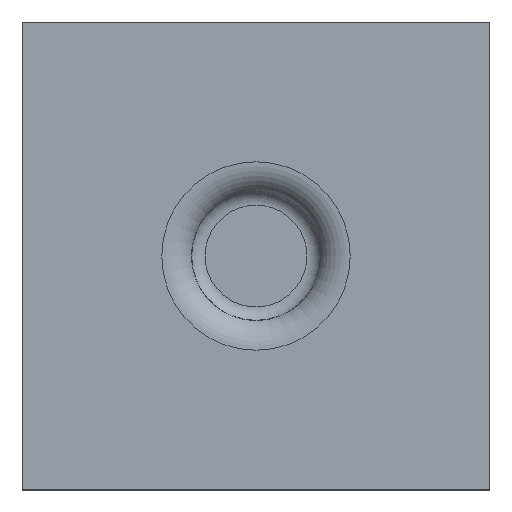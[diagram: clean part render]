
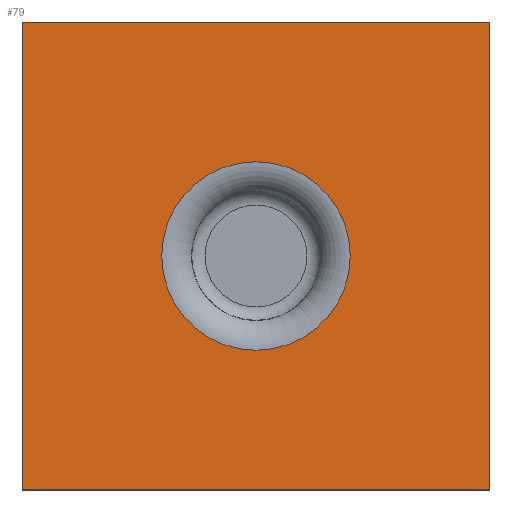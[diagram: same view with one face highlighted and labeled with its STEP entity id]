
A CAD part, top view. The second image highlights one B-rep face of the part: STEP entity #79.
In plain terms, the highlighted planar face has unit normal (0, 0, 1).
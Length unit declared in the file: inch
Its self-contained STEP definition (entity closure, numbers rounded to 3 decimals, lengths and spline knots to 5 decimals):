
#79=ADVANCED_FACE('',(#101,#102),#103,.T.);
#101=FACE_OUTER_BOUND('',#137,.T.);
#102=FACE_BOUND('',#138,.T.);
#103=PLANE('',#139);
#137=EDGE_LOOP('',(#181,#182,#183,#184));
#138=EDGE_LOOP('',(#185));
#139=AXIS2_PLACEMENT_3D('',#186,#187,#188);
#181=ORIENTED_EDGE('',*,*,#248,.T.);
#182=ORIENTED_EDGE('',*,*,#249,.T.);
#183=ORIENTED_EDGE('',*,*,#250,.T.);
#184=ORIENTED_EDGE('',*,*,#251,.T.);
#185=ORIENTED_EDGE('',*,*,#244,.F.);
#186=CARTESIAN_POINT('',(-1.24065,-0.51097,0.075));
#187=DIRECTION('',(0.0,0.0,1.0));
#188=DIRECTION('',(1.0,0.0,0.0));
#244=EDGE_CURVE('',#264,#264,#265,.T.);
#248=EDGE_CURVE('',#272,#273,#274,.F.);
#249=EDGE_CURVE('',#273,#275,#276,.F.);
#250=EDGE_CURVE('',#275,#277,#278,.F.);
#251=EDGE_CURVE('',#277,#272,#279,.F.);
#264=VERTEX_POINT('',#300);
#265=CIRCLE('',#301,0.40261);
#272=VERTEX_POINT('',#308);
#273=VERTEX_POINT('',#309);
#274=LINE('',#310,#311);
#275=VERTEX_POINT('',#312);
#276=LINE('',#313,#314);
#277=VERTEX_POINT('',#315);
#278=LINE('',#316,#317);
#279=LINE('',#318,#319);
#300=CARTESIAN_POINT('',(-0.83804,-0.51097,0.075));
#301=AXIS2_PLACEMENT_3D('',#348,#349,#350);
#308=CARTESIAN_POINT('',(-0.24065,-1.51097,0.075));
#309=CARTESIAN_POINT('',(-0.24065,0.48903,0.075));
#310=CARTESIAN_POINT('',(-0.24065,-0.51097,0.075));
#311=VECTOR('',#360,1.0);
#312=CARTESIAN_POINT('',(-2.24065,0.48903,0.075));
#313=CARTESIAN_POINT('',(-1.24065,0.48903,0.075));
#314=VECTOR('',#361,1.0);
#315=CARTESIAN_POINT('',(-2.24065,-1.51097,0.075));
#316=CARTESIAN_POINT('',(-2.24065,-0.51097,0.075));
#317=VECTOR('',#362,1.0);
#318=CARTESIAN_POINT('',(-1.24065,-1.51097,0.075));
#319=VECTOR('',#363,1.0);
#348=CARTESIAN_POINT('',(-1.24065,-0.51097,0.075));
#349=DIRECTION('',(0.0,0.0,1.0));
#350=DIRECTION('',(1.0,0.0,0.0));
#360=DIRECTION('',(0.0,-1.0,0.0));
#361=DIRECTION('',(1.0,0.0,0.0));
#362=DIRECTION('',(0.0,1.0,0.0));
#363=DIRECTION('',(-1.0,0.0,0.0));
